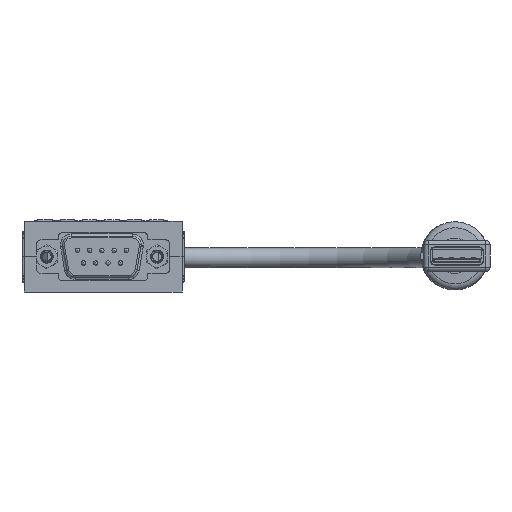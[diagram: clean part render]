
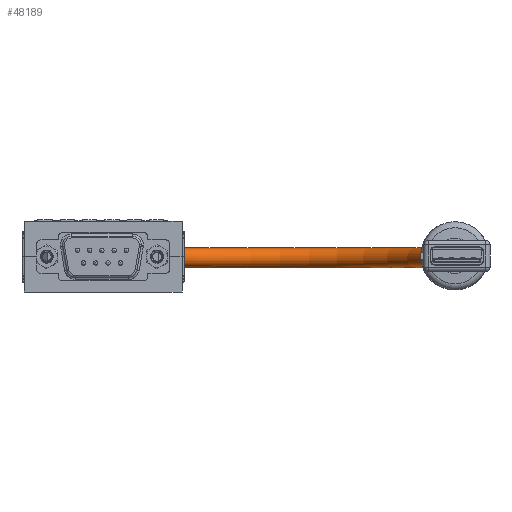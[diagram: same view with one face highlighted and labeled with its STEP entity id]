
A CAD part, top view. The second image highlights one B-rep face of the part: STEP entity #48189.
In plain terms, the highlighted toroidal (fillet/blend) face has major radius 40 mm and minor radius 2.25 mm.
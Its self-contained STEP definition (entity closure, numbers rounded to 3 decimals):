
#2749=TOROIDAL_SURFACE('',#53257,40.,2.25);
#7836=FACE_OUTER_BOUND('',#10608,.T.);
#10608=EDGE_LOOP('',(#44662,#44663,#44664,#44665,#44666,#44667));
#11519=CIRCLE('',#52775,2.25);
#11520=CIRCLE('',#52776,2.25);
#11714=CIRCLE('',#53255,2.25);
#11715=CIRCLE('',#53256,2.25);
#11716=CIRCLE('',#53258,37.75);
#22445=VERTEX_POINT('',#96975);
#22446=VERTEX_POINT('',#96976);
#22848=VERTEX_POINT('',#98571);
#22849=VERTEX_POINT('',#98573);
#29489=EDGE_CURVE('',#22445,#22446,#11519,.T.);
#29491=EDGE_CURVE('',#22446,#22445,#11520,.T.);
#30134=EDGE_CURVE('',#22848,#22849,#11714,.T.);
#30135=EDGE_CURVE('',#22849,#22848,#11715,.T.);
#30136=EDGE_CURVE('',#22849,#22446,#11716,.T.);
#44662=ORIENTED_EDGE('',*,*,#30134,.F.);
#44663=ORIENTED_EDGE('',*,*,#30135,.F.);
#44664=ORIENTED_EDGE('',*,*,#30136,.T.);
#44665=ORIENTED_EDGE('',*,*,#29491,.T.);
#44666=ORIENTED_EDGE('',*,*,#29489,.T.);
#44667=ORIENTED_EDGE('',*,*,#30136,.F.);
#48189=ADVANCED_FACE('',(#7836),#2749,.T.);
#52775=AXIS2_PLACEMENT_3D('',#96977,#65046,#65047);
#52776=AXIS2_PLACEMENT_3D('',#96979,#65049,#65050);
#53255=AXIS2_PLACEMENT_3D('',#98574,#66400,#66401);
#53256=AXIS2_PLACEMENT_3D('',#98575,#66402,#66403);
#53257=AXIS2_PLACEMENT_3D('',#98576,#66404,#66405);
#53258=AXIS2_PLACEMENT_3D('',#98577,#66406,#66407);
#65046=DIRECTION('center_axis',(0.,0.,-1.));
#65047=DIRECTION('ref_axis',(1.,0.,0.));
#65049=DIRECTION('center_axis',(0.,0.,-1.));
#65050=DIRECTION('ref_axis',(1.,0.,0.));
#66400=DIRECTION('center_axis',(0.,0.,1.));
#66401=DIRECTION('ref_axis',(-1.,0.,0.));
#66402=DIRECTION('center_axis',(0.,0.,1.));
#66403=DIRECTION('ref_axis',(-1.,0.,0.));
#66404=DIRECTION('center_axis',(0.,-1.,0.));
#66405=DIRECTION('ref_axis',(0.,0.,-1.));
#66406=DIRECTION('center_axis',(0.,1.,0.));
#66407=DIRECTION('ref_axis',(0.,0.,-1.));
#96975=CARTESIAN_POINT('',(-2.25,0.,-113.2));
#96976=CARTESIAN_POINT('',(2.25,0.,-113.2));
#96977=CARTESIAN_POINT('Origin',(0.,0.,-113.2));
#96979=CARTESIAN_POINT('Origin',(0.,0.,-113.2));
#98571=CARTESIAN_POINT('',(82.25,0.,-113.2));
#98573=CARTESIAN_POINT('',(77.75,0.,-113.2));
#98574=CARTESIAN_POINT('Origin',(80.,0.,-113.2));
#98575=CARTESIAN_POINT('Origin',(80.,0.,-113.2));
#98576=CARTESIAN_POINT('Origin',(40.,0.,-113.2));
#98577=CARTESIAN_POINT('Origin',(40.,0.,
-113.2));
